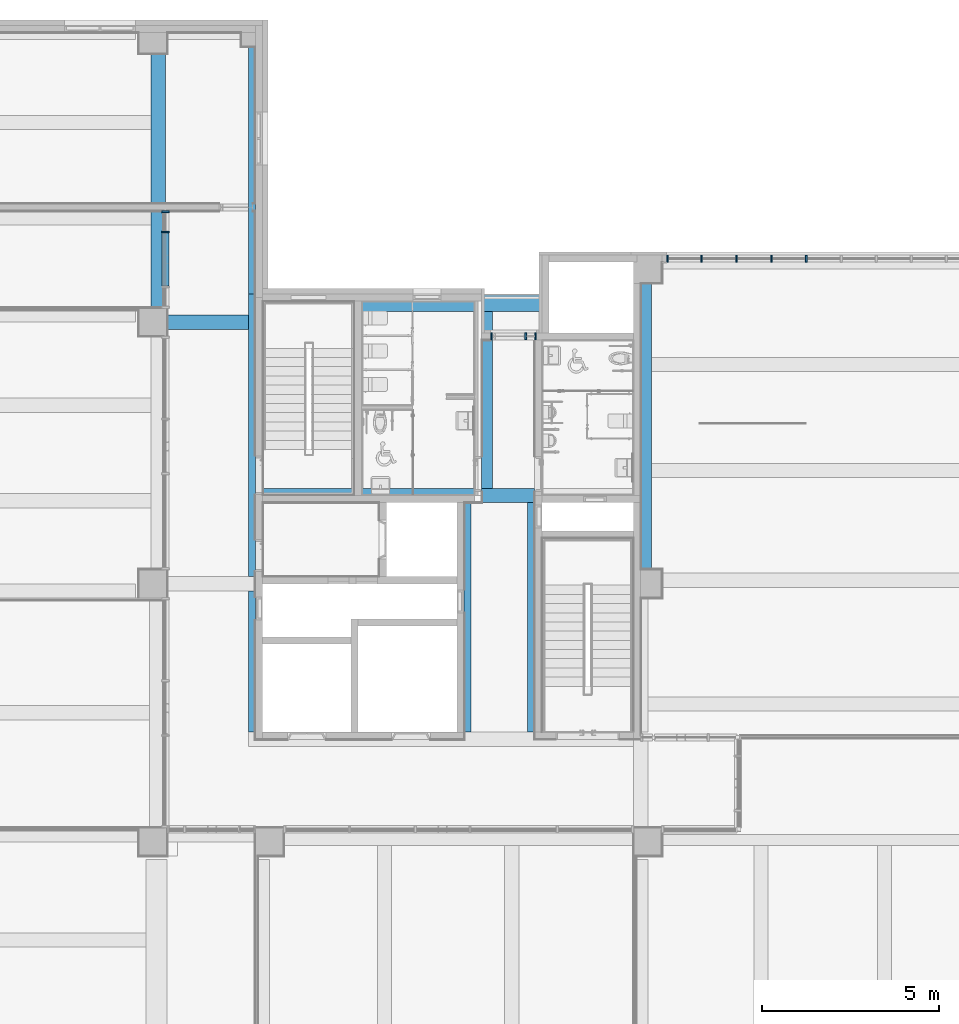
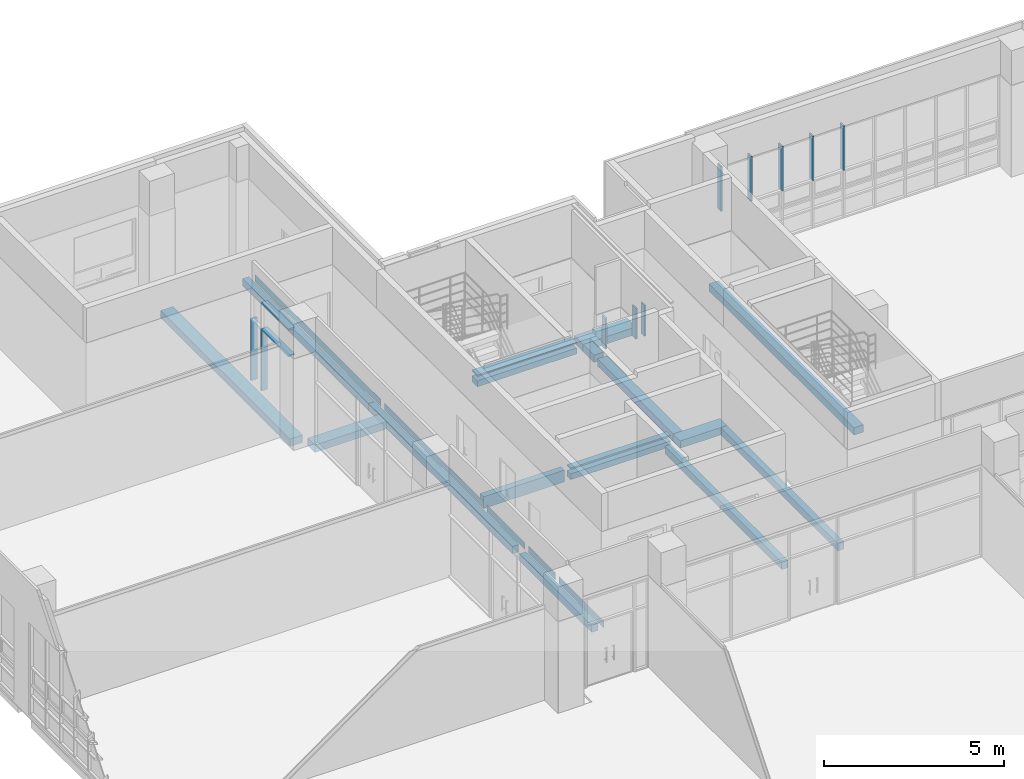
# One storey, part 8 of 74: 12 members, 11 beams, 3 elements without a shape of their own.
"""IFC2X3 building model written with IfcOpenShell, lengths in millimetres."""

from ifc_helpers import new_model, entity, si_unit, converted_unit, derived_unit, direction, frame, frame_2d, origin, origin_2d_with_axis, place, context, subcontext, project, spatial, rectangle, extrude, source, transform, mapped, material, type_object, type_shapes, element, aggregate, save


model = new_model("IFC2X3")

# Units and contexts
model_context = context("Model", 3, precision=0.01, world=origin(), true_north=direction((6.123031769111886e-17, 1.0)))
body_context = subcontext(model_context, "Body", "Model", "MODEL_VIEW")
ifc_project = project(units=[si_unit("LENGTHUNIT", "METRE", prefix="MILLI"), si_unit("AREAUNIT", "SQUARE_METRE"), si_unit("VOLUMEUNIT", "CUBIC_METRE"), converted_unit("PLANEANGLEUNIT", "DEGREE", entity("IfcRatioMeasure", 0.017453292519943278), si_unit("PLANEANGLEUNIT", "RADIAN"), dimensions=[0, 0, 0, 0, 0, 0, 0]), si_unit("MASSUNIT", "GRAM", prefix="KILO"), derived_unit("MASSDENSITYUNIT", [(si_unit("MASSUNIT", "GRAM", prefix="KILO"), 1), (si_unit("LENGTHUNIT", "METRE"), -3)]), derived_unit("MOMENTOFINERTIAUNIT", [(si_unit("LENGTHUNIT", "METRE"), 4)]), si_unit("TIMEUNIT", "SECOND"), si_unit("FREQUENCYUNIT", "HERTZ"), si_unit("THERMODYNAMICTEMPERATUREUNIT", "DEGREE_CELSIUS"), derived_unit("THERMALTRANSMITTANCEUNIT", [(si_unit("MASSUNIT", "GRAM", prefix="KILO"), 1), (si_unit("THERMODYNAMICTEMPERATUREUNIT", "KELVIN"), -1), (si_unit("TIMEUNIT", "SECOND"), -3)]), derived_unit("VOLUMETRICFLOWRATEUNIT", [(si_unit("LENGTHUNIT", "METRE"), 3), (si_unit("TIMEUNIT", "SECOND"), -1)]), derived_unit("MASSFLOWRATEUNIT", [(si_unit("MASSUNIT", "GRAM", prefix="KILO"), 1), (si_unit("TIMEUNIT", "SECOND"), -1)]), derived_unit("ROTATIONALFREQUENCYUNIT", [(si_unit("TIMEUNIT", "SECOND"), -1)]), si_unit("ELECTRICCURRENTUNIT", "AMPERE"), si_unit("ELECTRICVOLTAGEUNIT", "VOLT"), si_unit("POWERUNIT", "WATT"), si_unit("FORCEUNIT", "NEWTON", prefix="KILO"), si_unit("ILLUMINANCEUNIT", "LUX"), si_unit("LUMINOUSFLUXUNIT", "LUMEN"), si_unit("LUMINOUSINTENSITYUNIT", "CANDELA"), derived_unit("USERDEFINED", [(si_unit("MASSUNIT", "GRAM", prefix="KILO"), -1), (si_unit("LENGTHUNIT", "METRE"), -2), (si_unit("TIMEUNIT", "SECOND"), 3), (si_unit("LUMINOUSFLUXUNIT", "LUMEN"), 1)]), derived_unit("SOUNDPOWERUNIT", [(si_unit("MASSUNIT", "GRAM", prefix="KILO"), 1), (si_unit("LENGTHUNIT", "METRE"), 2), (si_unit("TIMEUNIT", "SECOND"), -3)]), derived_unit("SOUNDPRESSUREUNIT", [(si_unit("MASSUNIT", "GRAM", prefix="KILO"), 1), (si_unit("LENGTHUNIT", "METRE"), -1), (si_unit("TIMEUNIT", "SECOND"), -2)]), derived_unit("LINEARVELOCITYUNIT", [(si_unit("LENGTHUNIT", "METRE"), 1), (si_unit("TIMEUNIT", "SECOND"), -1)]), si_unit("PRESSUREUNIT", "PASCAL"), derived_unit("USERDEFINED", [(si_unit("LENGTHUNIT", "METRE"), -2), (si_unit("MASSUNIT", "GRAM", prefix="KILO"), 1), (si_unit("TIMEUNIT", "SECOND"), -2)]), derived_unit("LINEARFORCEUNIT", [(si_unit("MASSUNIT", "GRAM", prefix="KILO"), 1), (si_unit("LENGTHUNIT", "METRE"), 1), (si_unit("TIMEUNIT", "SECOND"), -2), (si_unit("LENGTHUNIT", "METRE"), -1)]), derived_unit("PLANARFORCEUNIT", [(si_unit("MASSUNIT", "GRAM", prefix="KILO"), 1), (si_unit("LENGTHUNIT", "METRE"), 1), (si_unit("TIMEUNIT", "SECOND"), -2), (si_unit("LENGTHUNIT", "METRE"), -2)])], contexts=[model_context])

# Site, building, storey
site_placement = place(None, frame((-14167.972527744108, -657.2125860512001, 0.0)))
site = spatial("IfcSite", under=ifc_project, at=site_placement, Name="Default", CompositionType="ELEMENT")
building_placement = place(site_placement, origin())
building = spatial("IfcBuilding", under=site, at=building_placement, Name="Sample Building", CompositionType="ELEMENT")
storey_placement = place(building_placement, frame((0.0, 0.0, 4800.0)))
storey = spatial("IfcBuildingStorey", under=building, at=storey_placement, Name="지상 2층", CompositionType="ELEMENT", Elevation=4800.000000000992)

# Curtain wall, members
curtain_wall_type = type_object("IfcCurtainWallType", Name="커튼월:CW112-스테인리스 스틸 커튼월", PredefinedType="NOTDEFINED")
curtain_wall_1_placement = place(storey_placement, frame((0.0, 0.0, -4800.0)))
curtain_wall_1 = element("IfcCurtainWall", 1, at=curtain_wall_1_placement, inside=storey, type_object=curtain_wall_type, Name="커튼월:CW112-스테인리스 스틸 커튼월", ObjectType="커튼월:CW112-스테인리스 스틸 커튼월")
ifc_material_1 = material(Name="<Unnamed>")
member_type_1 = type_object("IfcMemberType", Name="직사각형 멀리언:CW200-직사각형 멀리언 50x200mm", PredefinedType="MULLION", material=ifc_material_1)
shared_shape_1 = source(origin(), body_context, "Body", "SweptSolid", [
    extrude(rectangle(XDim=200.0, YDim=50.0, at=origin_2d_with_axis()), frame((0.0, 0.0, -2100.0), z_axis=(0.0, 0.0, 1.0), x_axis=(0.0, -1.0, 0.0)), (0.0, 0.0, 1.0), 2100.0),
])
type_shapes(member_type_1, [shared_shape_1])
member_1_placement = place(curtain_wall_1_placement, frame((27522.980314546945, 29907.21227524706, 4880.0), z_axis=(0.0, 0.0, -1.0), x_axis=(0.0, -1.0, 0.0)))
member_1 = element("IfcMember", 2, at=member_1_placement, type_object=member_type_1, material=ifc_material_1, Name="직사각형 멀리언:CW200-직사각형 멀리언 50x200mm", ObjectType="직사각형 멀리언:CW200-직사각형 멀리언 50x200mm", context=body_context, shape_type="MappedRepresentation", body=[
    mapped(shared_shape_1, transform((0.0, 0.0, 0.0), scale=1.0)),
])
member_type_2 = type_object("IfcMemberType", Name="직사각형 멀리언:CW200-직사각형 멀리언 50x200mm", PredefinedType="MULLION", material=ifc_material_1)
shared_shape_2 = source(origin(), body_context, "Body", "SweptSolid", [
    extrude(rectangle(XDim=200.0, YDim=50.0, at=origin_2d_with_axis()), frame((-25.0, 0.0, -2100.0), z_axis=(0.0, 0.0, 1.0), x_axis=(0.0, -1.0, 0.0)), (0.0, 0.0, 1.0), 2099.9999999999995),
])
type_shapes(member_type_2, [shared_shape_2])
member_2_placement = place(curtain_wall_1_placement, frame((27522.980314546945, 30507.21227524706, 6980.0), z_axis=(0.0, 0.0, 1.0), x_axis=(0.0, 1.0, 0.0)))
member_2 = element("IfcMember", 3, at=member_2_placement, type_object=member_type_2, material=ifc_material_1, Name="직사각형 멀리언:CW200-직사각형 멀리언 50x200mm", ObjectType="직사각형 멀리언:CW200-직사각형 멀리언 50x200mm", context=body_context, shape_type="MappedRepresentation", body=[
    mapped(shared_shape_2, transform((0.0, 0.0, 0.0), scale=1.0)),
])

curtain_wall_2_placement = place(storey_placement, frame((0.0, 0.0, -4800.0)))
curtain_wall_2 = element("IfcCurtainWall", 4, at=curtain_wall_2_placement, inside=storey, type_object=curtain_wall_type, Name="커튼월:CW112-스테인리스 스틸 커튼월", ObjectType="커튼월:CW112-스테인리스 스틸 커튼월")
member_type_3 = type_object("IfcMemberType", Name="직사각형 멀리언:CW200-직사각형 멀리언 50x200mm", PredefinedType="MULLION", material=ifc_material_1)
shared_shape_3 = source(origin(), body_context, "Body", "SweptSolid", [
    extrude(rectangle(XDim=200.0, YDim=50.0, at=origin_2d_with_axis()), frame((-25.0, 0.0, -1520.0), z_axis=(0.0, 0.0, 1.0), x_axis=(0.0, -1.0, 0.0)), (0.0, 0.0, 1.0), 1520.0000000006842),
])
type_shapes(member_type_3, [shared_shape_3])
member_3_placement = place(curtain_wall_2_placement, frame((41697.546658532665, 29157.212295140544, 6480.0), z_axis=(0.0, 0.0, -1.0), x_axis=(-1.0, 0.0, 0.0)))
member_3 = element("IfcMember", 5, at=member_3_placement, type_object=member_type_3, material=ifc_material_1, Name="직사각형 멀리언:CW200-직사각형 멀리언 50x200mm", ObjectType="직사각형 멀리언:CW200-직사각형 멀리언 50x200mm", context=body_context, shape_type="MappedRepresentation", body=[
    mapped(shared_shape_3, transform((0.0, 0.0, 0.0), scale=1.0)),
])
member_type_4 = type_object("IfcMemberType", Name="직사각형 멀리언:CW200-직사각형 멀리언 50x200mm", PredefinedType="MULLION", material=ifc_material_1)
shared_shape_4 = source(origin(), body_context, "Body", "SweptSolid", [
    extrude(rectangle(XDim=200.0, YDim=50.0, at=origin_2d_with_axis()), frame((0.0, 0.0, -1520.0), z_axis=(0.0, 0.0, 1.0), x_axis=(0.0, -1.0, 0.0)), (0.0, 0.0, 1.0), 1520.0000000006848),
])
type_shapes(member_type_4, [shared_shape_4])
member_4_placement = place(curtain_wall_2_placement, frame((45653.10221408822, 29157.212295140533, 6480.0), z_axis=(0.0, 0.0, -1.0), x_axis=(-1.0, 0.0, 0.0)))
member_4 = element("IfcMember", 6, at=member_4_placement, type_object=member_type_4, material=ifc_material_1, Name="직사각형 멀리언:CW200-직사각형 멀리언 50x200mm", ObjectType="직사각형 멀리언:CW200-직사각형 멀리언 50x200mm", context=body_context, shape_type="MappedRepresentation", body=[
    mapped(shared_shape_4, transform((0.0, 0.0, 0.0), scale=1.0)),
])
member_5_placement = place(curtain_wall_2_placement, frame((44664.21332519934, 29157.212295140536, 6480.0), z_axis=(0.0, 0.0, -1.0), x_axis=(-1.0, 0.0, 0.0)))
member_5 = element("IfcMember", 7, at=member_5_placement, type_object=member_type_4, material=ifc_material_1, Name="직사각형 멀리언:CW200-직사각형 멀리언 50x200mm", ObjectType="직사각형 멀리언:CW200-직사각형 멀리언 50x200mm", context=body_context, shape_type="MappedRepresentation", body=[
    mapped(shared_shape_4, transform((0.0, 0.0, 0.0), scale=1.0)),
])
member_6_placement = place(curtain_wall_2_placement, frame((43675.32443631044, 29157.21229514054, 6480.0), z_axis=(0.0, 0.0, -1.0), x_axis=(-1.0, 0.0, 0.0)))
member_6 = element("IfcMember", 8, at=member_6_placement, type_object=member_type_4, material=ifc_material_1, Name="직사각형 멀리언:CW200-직사각형 멀리언 50x200mm", ObjectType="직사각형 멀리언:CW200-직사각형 멀리언 50x200mm", context=body_context, shape_type="MappedRepresentation", body=[
    mapped(shared_shape_4, transform((0.0, 0.0, 0.0), scale=1.0)),
])
member_7_placement = place(curtain_wall_2_placement, frame((42686.43554742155, 29157.21229514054, 6480.0), z_axis=(0.0, 0.0, -1.0), x_axis=(-1.0, 0.0, 0.0)))
member_7 = element("IfcMember", 9, at=member_7_placement, type_object=member_type_4, material=ifc_material_1, Name="직사각형 멀리언:CW200-직사각형 멀리언 50x200mm", ObjectType="직사각형 멀리언:CW200-직사각형 멀리언 50x200mm", context=body_context, shape_type="MappedRepresentation", body=[
    mapped(shared_shape_4, transform((0.0, 0.0, 0.0), scale=1.0)),
])
aggregate(curtain_wall_2, [member_3, member_4, member_5, member_6, member_7])

curtain_wall_3_placement = place(storey_placement, frame((0.0, 0.0, -4800.0)))
curtain_wall_3 = element("IfcCurtainWall", 10, at=curtain_wall_3_placement, inside=storey, type_object=curtain_wall_type, Name="커튼월:CW112-스테인리스 스틸 커튼월", ObjectType="커튼월:CW112-스테인리스 스틸 커튼월")
member_type_5 = type_object("IfcMemberType", Name="직사각형 멀리언:CW200-직사각형 멀리언 50x200mm", PredefinedType="MULLION", material=ifc_material_1)
shared_shape_5 = source(origin(), body_context, "Body", "SweptSolid", [
    extrude(rectangle(XDim=200.0, YDim=50.0, at=origin_2d_with_axis()), frame((-25.0, 0.0, -1050.0), z_axis=(0.0, 0.0, 1.0), x_axis=(0.0, -1.0, 0.0)), (0.0, 0.0, 1.0), 1050.0),
])
type_shapes(member_type_5, [shared_shape_5])
member_8_placement = place(curtain_wall_3_placement, frame((38017.97249112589, 26957.212295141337, 4880.0), z_axis=(0.0, 0.0, -1.0), x_axis=(1.0, 0.0, 0.0)))
member_8 = element("IfcMember", 11, at=member_8_placement, type_object=member_type_5, material=ifc_material_1, Name="직사각형 멀리언:CW200-직사각형 멀리언 50x200mm", ObjectType="직사각형 멀리언:CW200-직사각형 멀리언 50x200mm", context=body_context, shape_type="MappedRepresentation", body=[
    mapped(shared_shape_5, transform((0.0, 0.0, 0.0), scale=1.0)),
])
member_type_6 = type_object("IfcMemberType", Name="직사각형 멀리언:CW200-직사각형 멀리언 50x200mm", PredefinedType="MULLION", material=ifc_material_1)
shared_shape_6 = source(origin(), body_context, "Body", "SweptSolid", [
    extrude(rectangle(XDim=200.0, YDim=50.0, at=origin_2d_with_axis()), frame((0.0, 0.0, -1050.0), z_axis=(0.0, 0.0, 1.0), x_axis=(0.0, -1.0, 0.0)), (0.0, 0.0, 1.0), 1050.0),
])
type_shapes(member_type_6, [shared_shape_6])
member_9_placement = place(curtain_wall_3_placement, frame((37717.963798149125, 26957.212295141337, 4880.0), z_axis=(0.0, 0.0, -1.0), x_axis=(1.0, 0.0, 0.0)))
member_9 = element("IfcMember", 12, at=member_9_placement, type_object=member_type_6, material=ifc_material_1, Name="직사각형 멀리언:CW200-직사각형 멀리언 50x200mm", ObjectType="직사각형 멀리언:CW200-직사각형 멀리언 50x200mm", context=body_context, shape_type="MappedRepresentation", body=[
    mapped(shared_shape_6, transform((0.0, 0.0, 0.0), scale=1.0)),
])
member_type_7 = type_object("IfcMemberType", Name="직사각형 멀리언:CW200-직사각형 멀리언 50x200mm", PredefinedType="MULLION", material=ifc_material_1)
shared_shape_7 = source(origin(), body_context, "Body", "SweptSolid", [
    extrude(rectangle(XDim=200.0, YDim=50.0, at=origin_2d_with_axis()), frame((-25.0, 0.0, -1050.0), z_axis=(0.0, 0.0, 1.0), x_axis=(0.0, -1.0, 0.0)), (0.0, 0.0, 1.0), 1050.0),
])
type_shapes(member_type_7, [shared_shape_7])
member_10_placement = place(curtain_wall_3_placement, frame((36717.963798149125, 26957.21229514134, 5930.0), z_axis=(0.0, 0.0, 1.0), x_axis=(-1.0, 0.0, 0.0)))
member_10 = element("IfcMember", 13, at=member_10_placement, type_object=member_type_7, material=ifc_material_1, Name="직사각형 멀리언:CW200-직사각형 멀리언 50x200mm", ObjectType="직사각형 멀리언:CW200-직사각형 멀리언 50x200mm", context=body_context, shape_type="MappedRepresentation", body=[
    mapped(shared_shape_7, transform((0.0, 0.0, 0.0), scale=1.0)),
])
aggregate(curtain_wall_3, [member_8, member_9, member_10])

# Member
member_type_8 = type_object("IfcMemberType", Name="직사각형 멀리언:CW200-직사각형 멀리언 50x200mm", PredefinedType="MULLION", material=ifc_material_1)
shared_shape_8 = source(origin(), body_context, "Body", "SweptSolid", [
    extrude(rectangle(XDim=200.0, YDim=50.0, at=origin_2d_with_axis()), frame((0.0, 0.0, -1504.9996891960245), z_axis=(0.0, 0.0, 1.0), x_axis=(0.0, -1.0, 0.0)), (0.0, 0.0, 1.0), 1504.9996891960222),
])
type_shapes(member_type_8, [shared_shape_8])
member_11_placement = place(curtain_wall_1_placement, frame((27522.98031454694, 28377.212586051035, 6980.0), z_axis=(0.0, -1.0, 0.0), x_axis=(0.0, 0.0, 1.0)))
member_11 = element("IfcMember", 14, at=member_11_placement, type_object=member_type_8, material=ifc_material_1, Name="직사각형 멀리언:CW200-직사각형 멀리언 50x200mm", ObjectType="직사각형 멀리언:CW200-직사각형 멀리언 50x200mm", context=body_context, shape_type="MappedRepresentation", body=[
    mapped(shared_shape_8, transform((0.0, 0.0, 0.0), scale=1.0)),
])

member_type_9 = type_object("IfcMemberType", Name="직사각형 멀리언:CW200-직사각형 멀리언 50x200mm", PredefinedType="MULLION", material=ifc_material_1)
shared_shape_9 = source(origin(), body_context, "Body", "SweptSolid", [
    extrude(rectangle(XDim=200.0, YDim=50.0, at=origin_2d_with_axis()), frame((-25.0, 0.0, -1504.9996891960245), z_axis=(0.0, 0.0, 1.0), x_axis=(0.0, -1.0, 0.0)), (0.0, 0.0, 1.0), 1504.9996891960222),
])
type_shapes(member_type_9, [shared_shape_9])
member_12_placement = place(curtain_wall_1_placement, frame((27522.98031454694, 28377.212586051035, 7900.0), z_axis=(0.0, -1.0, 0.0), x_axis=(0.0, 0.0, 1.0)))
member_12 = element("IfcMember", 15, at=member_12_placement, type_object=member_type_9, material=ifc_material_1, Name="직사각형 멀리언:CW200-직사각형 멀리언 50x200mm", ObjectType="직사각형 멀리언:CW200-직사각형 멀리언 50x200mm", context=body_context, shape_type="MappedRepresentation", body=[
    mapped(shared_shape_9, transform((0.0, 0.0, 0.0), scale=1.0)),
])

aggregate(curtain_wall_1, [member_2, member_11, member_1, member_12])

# Beams
ifc_material_2 = material(Name="KBIMS-콘크리트")
beam_type_1 = type_object("IfcBeamType", Name="BM111-철근콘크리트구조 보:BM110-철근 콘크리트구조 보_400 x 400_2-10G3", PredefinedType="NOTDEFINED")
beam_1_placement = place(storey_placement, frame((27217.962965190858, 27357.212478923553, 0.0)))
element("IfcBeam", 16, at=beam_1_placement, inside=storey, type_object=beam_type_1, material=ifc_material_2, Name="BM111-철근콘크리트구조 보:BM110-철근 콘크리트구조 보_400 x 400_2-10G3", ObjectType="BM111-철근콘크리트구조 보:BM110-철근 콘크리트구조 보_400 x 400_2-10G3", context=body_context, shape_type="SweptSolid", body=[
    extrude(rectangle(XDim=250.00000000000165, YDim=400.0000000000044, at=origin_2d_with_axis()), frame((349.9921765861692, 0.0, -275.0), z_axis=(1.0, 0.0, 0.0), x_axis=(0.0, 0.0, -1.0)), (0.0, 0.0, 1.0), 2299.9913070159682),
])
beam_type_2 = type_object("IfcBeamType", Name="BM111-철근콘크리트구조 보:BM110-철근 콘크리트구조 보_400 x 400_2-10G10", PredefinedType="NOTDEFINED")
beam_2_placement = place(storey_placement, frame((27318.061800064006, 27557.212617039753, 0.0), z_axis=(0.0, 0.0, 1.0), x_axis=(0.0, 1.0, 0.0)))
element("IfcBeam", 17, at=beam_2_placement, inside=storey, type_object=beam_type_2, material=ifc_material_2, Name="BM111-철근콘크리트구조 보:BM110-철근 콘크리트구조 보_400 x 400_2-10G10", ObjectType="BM111-철근콘크리트구조 보:BM110-철근 콘크리트구조 보_400 x 400_2-10G10", context=body_context, shape_type="SweptSolid", body=[
    extrude(rectangle(XDim=250.00000000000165, YDim=400.000000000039, at=frame_2d((0.0, -2.1657342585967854e-11), x_axis=(1.0, 0.0))), frame((200.0, 0.0, -275.0), z_axis=(1.0, 0.0, 0.0), x_axis=(0.0, 0.0, -1.0)), (0.0, 0.0, 1.0), 7199.999987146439),
])
beam_type_3 = type_object("IfcBeamType", Name="BM111-철근콘크리트구조 보:BM110-철근 콘크리트구조 보_500 x 400_2-10G5", PredefinedType="NOTDEFINED")
beam_3_placement = place(storey_placement, frame((41017.972607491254, 29057.212617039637, 0.0), z_axis=(0.0, 0.0, 1.0), x_axis=(0.0, -1.0, 0.0)))
element("IfcBeam", 18, at=beam_3_placement, inside=storey, type_object=beam_type_3, material=ifc_material_2, Name="BM111-철근콘크리트구조 보:BM110-철근 콘크리트구조 보_500 x 400_2-10G5", ObjectType="BM111-철근콘크리트구조 보:BM110-철근 콘크리트구조 보_500 x 400_2-10G5", context=body_context, shape_type="SweptSolid", body=[
    extrude(rectangle(XDim=250.00000000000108, YDim=300.0088093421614, at=frame_2d((0.0, -1.3002932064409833e-11), x_axis=(1.0, 0.0))), frame((600.0, 99.99559532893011, -275.0), z_axis=(1.0, 0.0, 0.0), x_axis=(0.0, 0.0, -1.0)), (0.0, 0.0, 1.0), 8062.500309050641),
])
beam_type_4 = type_object("IfcBeamType", Name="BM111-철근콘크리트구조 보:BM110-철근 콘크리트구조 보_400 x 400_2-10G2", PredefinedType="BEAM", material=ifc_material_2)
shared_shape_10 = source(origin(), body_context, "Body", "SweptSolid", [
    extrude(rectangle(XDim=250.00000000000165, YDim=1.8205977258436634, at=frame_2d((8.662959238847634e-12, 0.0), x_axis=(0.0, 1.0))), frame((30267.036113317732, 28157.212604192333, 4525.0), z_axis=(0.0, 1.0, 0.0), x_axis=(-1.0, 0.0, 0.0)), (0.0, 0.0, 1.0), 7000.000012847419),
    extrude(rectangle(XDim=250.00000000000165, YDim=198.17940227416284, at=frame_2d((8.661515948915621e-12, 0.0), x_axis=(0.0, 1.0))), frame((29967.03611331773, 28157.212604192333, 4525.0), z_axis=(0.0, 1.0, 0.0), x_axis=(-1.0, 0.0, 0.0)), (0.0, 0.0, 1.0), 7000.000012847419),
])
type_shapes(beam_type_4, [shared_shape_10])
beam_4_placement = place(storey_placement, frame((0.0, 0.0, -4800.0)))
element("IfcBeam", 19, at=beam_4_placement, inside=storey, type_object=beam_type_4, material=ifc_material_2, Name="BM111-철근콘크리트구조 보:BM110-철근 콘크리트구조 보_400 x 400_2-10G2", ObjectType="BM111-철근콘크리트구조 보:BM110-철근 콘크리트구조 보_400 x 400_2-10G2", context=body_context, shape_type="MappedRepresentation", body=[
    mapped(shared_shape_10, transform((0.0, 0.0, 0.0), scale=1.0)),
])
beam_type_5 = type_object("IfcBeamType", Name="BM111-철근콘크리트구조 보:BM110-철근 콘크리트구조 보_400 x 400_2-10WG1", PredefinedType="BEAM", material=ifc_material_2)
shared_shape_11 = source(origin(), body_context, "Body", "SweptSolid", [
    extrude(rectangle(XDim=250.00000000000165, YDim=1.820634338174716, at=frame_2d((0.0, 0.0), x_axis=(0.0, 1.0))), frame((30267.03613162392, 18457.212309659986, 4525.0), z_axis=(0.0, 1.0, 0.0), x_axis=(-1.0, 0.0, 0.0)), (0.0, 0.0, 1.0), 1499.9999983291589),
    extrude(rectangle(XDim=250.00000000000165, YDim=198.17936566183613, at=frame_2d((0.0, 0.0), x_axis=(0.0, 1.0))), frame((29967.036131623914, 15757.21260419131, 4525.0), z_axis=(0.0, 1.0, 0.0), x_axis=(-1.0, 0.0, 0.0)), (0.0, 0.0, 1.0), 4000.0000128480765),
    extrude(rectangle(XDim=250.00000000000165, YDim=1.820634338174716, at=frame_2d((-2.165712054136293e-12, 0.0), x_axis=(0.0, 1.0))), frame((30267.036131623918, 15757.21260419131, 4525.0), z_axis=(0.0, 1.0, 0.0), x_axis=(-1.0, 0.0, 0.0)), (0.0, 0.0, 1.0), 2499.9997054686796),
])
type_shapes(beam_type_5, [shared_shape_11])
beam_5_placement = place(storey_placement, frame((0.0, 0.0, -4800.0)))
element("IfcBeam", 20, at=beam_5_placement, inside=storey, type_object=beam_type_5, material=ifc_material_2, Name="BM111-철근콘크리트구조 보:BM110-철근 콘크리트구조 보_400 x 400_2-10WG1", ObjectType="BM111-철근콘크리트구조 보:BM110-철근 콘크리트구조 보_400 x 400_2-10WG1", context=body_context, shape_type="MappedRepresentation", body=[
    mapped(shared_shape_11, transform((0.0, 0.0, 0.0), scale=1.0)),
])
beam_type_6 = type_object("IfcBeamType", Name="BM111-철근콘크리트구조 보:BM110-철근 콘크리트구조 보_400 x 400_2-10WG1", PredefinedType="BEAM", material=ifc_material_2)
shared_shape_12 = source(origin(), body_context, "Body", "SweptSolid", [
    extrude(rectangle(XDim=250.00000000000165, YDim=1.8206343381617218, at=frame_2d((2.165712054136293e-12, 2.7000623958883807e-13), x_axis=(0.0, 1.0))), frame((30267.036131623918, 22257.212311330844, 4525.0), z_axis=(0.0, -1.0, 0.0), x_axis=(-1.0, 0.0, 0.0)), (0.0, 0.0, 1.0), 2099.9996942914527),
    extrude(rectangle(XDim=250.00000000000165, YDim=198.17936566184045, at=frame_2d((2.1671553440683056e-12, 0.0), x_axis=(0.0, 1.0))), frame((29967.036131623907, 28157.212604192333, 4525.0), z_axis=(0.0, -1.0, 0.0), x_axis=(-1.0, 0.0, 0.0)), (0.0, 0.0, 1.0), 7999.999987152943),
    extrude(rectangle(XDim=250.00000000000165, YDim=1.8206343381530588, at=frame_2d((4.331479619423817e-12, 2.7000623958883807e-13), x_axis=(0.0, 1.0))), frame((30267.03613162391, 27957.212307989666, 4525.0), z_axis=(0.0, -1.0, 0.0), x_axis=(-1.0, 0.0, 0.0)), (0.0, 0.0, 1.0), 5499.999996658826),
])
type_shapes(beam_type_6, [shared_shape_12])
beam_6_placement = place(storey_placement, frame((0.0, 0.0, -4800.0)))
element("IfcBeam", 21, at=beam_6_placement, inside=storey, type_object=beam_type_6, material=ifc_material_2, Name="BM111-철근콘크리트구조 보:BM110-철근 콘크리트구조 보_400 x 400_2-10WG1", ObjectType="BM111-철근콘크리트구조 보:BM110-철근 콘크리트구조 보_400 x 400_2-10WG1", context=body_context, shape_type="MappedRepresentation", body=[
    mapped(shared_shape_12, transform((0.0, 0.0, 0.0), scale=1.0)),
])
beam_type_7 = type_object("IfcBeamType", Name="BM111-철근콘크리트구조 보:BM110-철근 콘크리트구조 보_400 x 400_2-10WG2", PredefinedType="NOTDEFINED")
beam_7_placement = place(storey_placement, frame((35967.955141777, 15557.212604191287, 0.0), z_axis=(0.0, 0.0, 1.0), x_axis=(0.0, 1.0, 0.0)))
element("IfcBeam", 22, at=beam_7_placement, inside=storey, type_object=beam_type_7, material=ifc_material_2, Name="BM111-철근콘크리트구조 보:BM110-철근 콘크리트구조 보_400 x 400_2-10WG2", ObjectType="BM111-철근콘크리트구조 보:BM110-철근 콘크리트구조 보_400 x 400_2-10WG2", context=body_context, shape_type="SweptSolid", body=[
    extrude(rectangle(XDim=250.00000000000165, YDim=199.98265064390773, at=frame_2d((0.0, -2.1671553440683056e-12), x_axis=(1.0, 0.0))), frame((200.0, -100.0086746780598, -275.0), z_axis=(1.0, 0.0, 0.0), x_axis=(0.0, 0.0, -1.0)), (0.0, 0.0, 1.0), 6499.999509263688),
])
beam_type_8 = type_object("IfcBeamType", Name="BM111-철근콘크리트구조 보:BM110-철근 콘크리트구조 보_400 x 400_2-10B4", PredefinedType="NOTDEFINED")
beam_8_placement = place(storey_placement, frame((37967.94644879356, 15557.21260419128, 0.0), z_axis=(0.0, 0.0, 1.0), x_axis=(0.0, 1.0, 0.0)))
element("IfcBeam", 23, at=beam_8_placement, inside=storey, type_object=beam_type_8, material=ifc_material_2, Name="BM111-철근콘크리트구조 보:BM110-철근 콘크리트구조 보_400 x 400_2-10B4", ObjectType="BM111-철근콘크리트구조 보:BM110-철근 콘크리트구조 보_400 x 400_2-10B4", context=body_context, shape_type="SweptSolid", body=[
    extrude(rectangle(XDim=250.00000000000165, YDim=200.01734935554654, at=frame_2d((0.0, -4.334310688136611e-12), x_axis=(1.0, 0.0))), frame((200.0, 99.99132532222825, -275.0), z_axis=(1.0, 0.0, 0.0), x_axis=(0.0, 0.0, -1.0)), (0.0, 0.0, 1.0), 6499.999693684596),
])
beam_type_9 = type_object("IfcBeamType", Name="BM111-철근콘크리트구조 보:BM110-철근 콘크리트구조 보_400 x 400_2-10WG2", PredefinedType="BEAM", material=ifc_material_2)
shared_shape_13 = source(origin(), body_context, "Body", "SweptSolid", [
    extrude(rectangle(XDim=49.99999999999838, YDim=199.99980212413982, at=frame_2d((0.0, -2.1671553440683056e-12), x_axis=(1.0, 0.0))), frame((33067.972491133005, 22557.212212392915, 4775.0), z_axis=(1.0, 0.0, 0.0), x_axis=(0.0, 0.0, -1.0)), (0.0, 0.0, 1.0), 3199.991307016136),
    extrude(rectangle(XDim=250.00000000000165, YDim=400.0000000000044, at=origin_2d_with_axis()), frame((36467.963798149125, 22457.212113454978, 4525.0), z_axis=(1.0, 0.0, 0.0), x_axis=(0.0, 0.0, -1.0)), (0.0, 0.0, 1.0), 1500.000000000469),
    extrude(rectangle(XDim=400.0, YDim=199.99980212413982, at=frame_2d((0.0, -2.1671553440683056e-12), x_axis=(1.0, 0.0))), frame((30267.946448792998, 22557.212212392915, 4600.0), z_axis=(1.0, 0.0, 0.0), x_axis=(0.0, 0.0, -1.0)), (0.0, 0.0, 1.0), 2600.0260423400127),
    extrude(rectangle(XDim=200.00000000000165, YDim=199.99980212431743, at=frame_2d((2.7000623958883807e-13, -9.096368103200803e-11), x_axis=(1.0, 0.0))), frame((33067.972491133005, 22557.212212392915, 4500.0), z_axis=(1.0, 0.0, 0.0), x_axis=(0.0, 0.0, -1.0)), (0.0, 0.0, 1.0), 3199.991307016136),
])
type_shapes(beam_type_9, [shared_shape_13])
beam_9_placement = place(storey_placement, frame((0.0, 0.0, -4800.0)))
element("IfcBeam", 24, at=beam_9_placement, inside=storey, type_object=beam_type_9, material=ifc_material_2, Name="BM111-철근콘크리트구조 보:BM110-철근 콘크리트구조 보_400 x 400_2-10WG2", ObjectType="BM111-철근콘크리트구조 보:BM110-철근 콘크리트구조 보_400 x 400_2-10WG2", context=body_context, shape_type="MappedRepresentation", body=[
    mapped(shared_shape_13, transform((0.0, 0.0, 0.0), scale=1.0)),
])
beam_type_10 = type_object("IfcBeamType", Name="BM111-철근콘크리트구조 보:BM110-철근 콘크리트구조 보_400 x 400_2-10B4", PredefinedType="BEAM", material=ifc_material_2)
shared_shape_14 = source(origin(), body_context, "Body", "SweptSolid", [
    extrude(rectangle(XDim=250.00000000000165, YDim=300.00011635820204, at=frame_2d((-4.334310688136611e-12, 0.0), x_axis=(0.0, 1.0))), frame((36617.96385632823, 26857.212295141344, 4525.0), z_axis=(0.0, -1.0, 0.0), x_axis=(-1.0, 0.0, 0.0)), (0.0, 0.0, 1.0), 4200.000181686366),
    extrude(rectangle(XDim=250.00000000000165, YDim=300.00011635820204, at=frame_2d((0.0, 0.0), x_axis=(0.0, 1.0))), frame((36617.96385632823, 27657.212426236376, 4525.0), z_axis=(0.0, -1.0, 0.0), x_axis=(-1.0, 0.0, 0.0)), (0.0, 0.0, 1.0), 600.000131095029),
])
type_shapes(beam_type_10, [shared_shape_14])
beam_10_placement = place(storey_placement, frame((0.0, 0.0, -4800.0)))
element("IfcBeam", 25, at=beam_10_placement, inside=storey, type_object=beam_type_10, material=ifc_material_2, Name="BM111-철근콘크리트구조 보:BM110-철근 콘크리트구조 보_400 x 400_2-10B4", ObjectType="BM111-철근콘크리트구조 보:BM110-철근 콘크리트구조 보_400 x 400_2-10B4", context=body_context, shape_type="MappedRepresentation", body=[
    mapped(shared_shape_14, transform((0.0, 0.0, 0.0), scale=1.0)),
])
beam_type_11 = type_object("IfcBeamType", Name="BM111-철근콘크리트구조 보:BM110-철근 콘크리트구조 보_500 x 400_2-10G5", PredefinedType="BEAM", material=ifc_material_2)
shared_shape_15 = source(origin(), body_context, "Body", "SweptSolid", [
    extrude(rectangle(XDim=250.00000000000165, YDim=500.0000000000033, at=frame_2d((0.0, 2.1600499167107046e-12), x_axis=(1.0, 0.0))), frame((36467.963798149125, 27907.212426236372, 4525.0), z_axis=(1.0, 0.0, 0.0), x_axis=(0.0, 0.0, -1.0)), (0.0, 0.0, 1.0), 1700.0086929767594),
    extrude(rectangle(XDim=49.99999999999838, YDim=299.99988175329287, at=frame_2d((0.0, 2.1742607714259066e-12), x_axis=(1.0, 0.0))), frame((33067.972491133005, 27807.212367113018, 4775.0), z_axis=(1.0, 0.0, 0.0), x_axis=(0.0, 0.0, -1.0)), (0.0, 0.0, 1.0), 3199.9913070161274),
    extrude(rectangle(XDim=200.00000000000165, YDim=299.99988175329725, at=frame_2d((-2.7000623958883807e-13, -6.494360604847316e-12), x_axis=(1.0, 0.0))), frame((33067.972491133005, 27807.21236711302, 4500.0), z_axis=(1.0, 0.0, 0.0), x_axis=(0.0, 0.0, -1.0)), (0.0, 0.0, 1.0), 3199.9913070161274),
])
type_shapes(beam_type_11, [shared_shape_15])
beam_11_placement = place(storey_placement, frame((0.0, 0.0, -4800.0)))
element("IfcBeam", 26, at=beam_11_placement, inside=storey, type_object=beam_type_11, material=ifc_material_2, Name="BM111-철근콘크리트구조 보:BM110-철근 콘크리트구조 보_500 x 400_2-10G5", ObjectType="BM111-철근콘크리트구조 보:BM110-철근 콘크리트구조 보_500 x 400_2-10G5", context=body_context, shape_type="MappedRepresentation", body=[
    mapped(shared_shape_15, transform((0.0, 0.0, 0.0), scale=1.0)),
])

save(model, "model.ifc")
